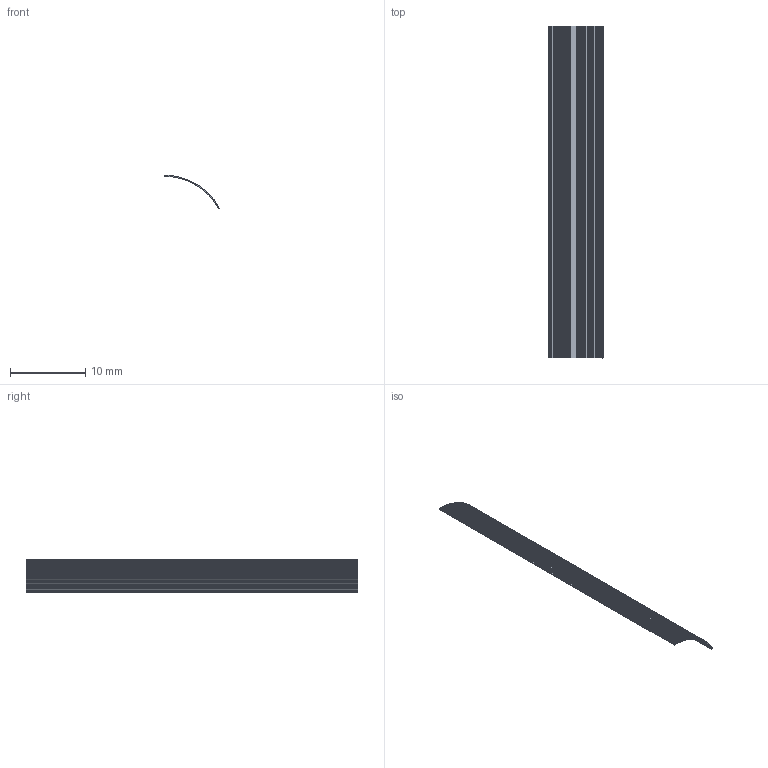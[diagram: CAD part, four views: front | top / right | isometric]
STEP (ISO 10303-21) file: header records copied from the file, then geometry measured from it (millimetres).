
FILE_DESCRIPTION(('Open CASCADE Model'),'2;1');
FILE_NAME('Open CASCADE Shape Model','2026-10-04T01:02:32',('Author'),( 'Open CASCADE'),'Open CASCADE STEP processor 8.0','Open CASCADE 8.0' ,'Unknown');
FILE_SCHEMA(('AUTOMOTIVE_DESIGN { 1 0 10303 214 1 1 1 1 }'));
Length unit declared in the file: millimetre
Products named in the file (1): Open CASCADE STEP translator 8.0 281
Bounding box: 7.23 x 44 x 4.41 mm (x, y, z)
Volume: 57.9 mm3; surface area: 788.5 mm2
Topology: 1 solids, 1 shells, 128 faces, 378 edges, 252 vertices
Faces by surface type: plane 128
Entity records: 9106 total; most frequent: CARTESIAN_POINT 1515, DIRECTION 1392, LINE 1134, VECTOR 1134, ORIENTED_EDGE 756, PCURVE 756, DEFINITIONAL_REPRESENTATION 756, EDGE_CURVE 378
